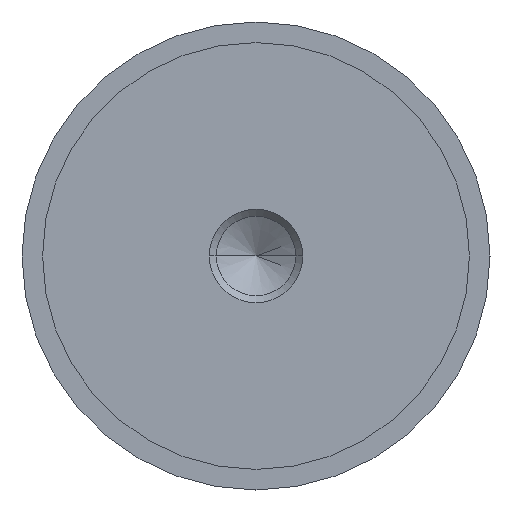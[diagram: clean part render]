
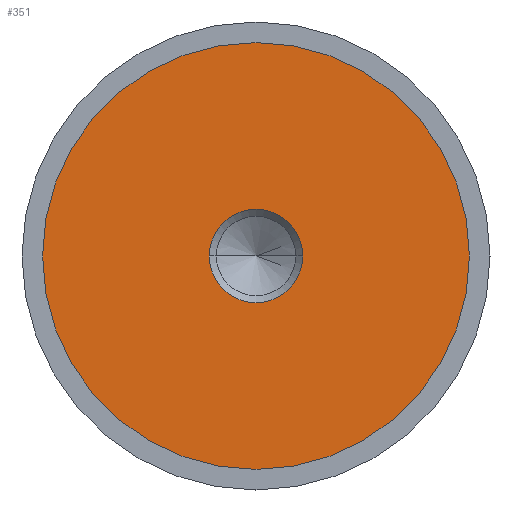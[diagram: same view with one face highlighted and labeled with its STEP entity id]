
A CAD part, left-side view. The second image highlights one B-rep face of the part: STEP entity #351.
In plain terms, the highlighted planar face has unit normal (-1, 0, 0).
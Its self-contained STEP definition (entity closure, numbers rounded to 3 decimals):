
#13 = CIRCLE ( 'NONE', #430, 22.8 ) ;
#16 = DIRECTION ( 'NONE',  ( -1., 0., 0. ) ) ;
#19 = DIRECTION ( 'NONE',  ( 1., 0., 0. ) ) ;
#89 = CIRCLE ( 'NONE', #124, 22.8 ) ;
#110 = DIRECTION ( 'NONE',  ( -1., 0., 0. ) ) ;
#114 = CIRCLE ( 'NONE', #666, 4.99 ) ;
#123 = CARTESIAN_POINT ( 'NONE',  ( -14.99, 0., 0. ) ) ;
#124 = AXIS2_PLACEMENT_3D ( 'NONE', #467, #16, #687 ) ;
#127 = FACE_OUTER_BOUND ( 'NONE', #618, .T. ) ;
#141 = ORIENTED_EDGE ( 'NONE', *, *, #690, .T. ) ;
#155 = ORIENTED_EDGE ( 'NONE', *, *, #637, .T. ) ;
#167 = VERTEX_POINT ( 'NONE', #199 ) ;
#172 = DIRECTION ( 'NONE',  ( 0., 0., -1. ) ) ;
#173 = VERTEX_POINT ( 'NONE', #453 ) ;
#199 = CARTESIAN_POINT ( 'NONE',  ( -14.99, 4.99, 0. ) ) ;
#201 = EDGE_CURVE ( 'NONE', #167, #478, #419, .T. ) ;
#203 = AXIS2_PLACEMENT_3D ( 'NONE', #531, #19, #172 ) ;
#268 = EDGE_CURVE ( 'NONE', #425, #173, #13, .T. ) ;
#270 = DIRECTION ( 'NONE',  ( 0., 0., 1. ) ) ;
#275 = ORIENTED_EDGE ( 'NONE', *, *, #268, .T. ) ;
#302 = CARTESIAN_POINT ( 'NONE',  ( -14.99, 0., 22.8 ) ) ;
#307 = ORIENTED_EDGE ( 'NONE', *, *, #201, .T. ) ;
#337 = CARTESIAN_POINT ( 'NONE',  ( -14.99, 0., 0. ) ) ;
#351 = ADVANCED_FACE ( 'NONE', ( #468, #127 ), #693, .F. ) ;
#419 = CIRCLE ( 'NONE', #514, 4.99 ) ;
#425 = VERTEX_POINT ( 'NONE', #302 ) ;
#430 = AXIS2_PLACEMENT_3D ( 'NONE', #337, #110, #270 ) ;
#453 = CARTESIAN_POINT ( 'NONE',  ( -14.99, 0., -22.8 ) ) ;
#467 = CARTESIAN_POINT ( 'NONE',  ( -14.99, 0., 0. ) ) ;
#468 = FACE_BOUND ( 'NONE', #579, .T. ) ;
#478 = VERTEX_POINT ( 'NONE', #616 ) ;
#480 = DIRECTION ( 'NONE',  ( 0., 0., -1. ) ) ;
#502 = DIRECTION ( 'NONE',  ( 1., 0., 0. ) ) ;
#514 = AXIS2_PLACEMENT_3D ( 'NONE', #550, #502, #713 ) ;
#531 = CARTESIAN_POINT ( 'NONE',  ( -14.99, 22.8, 0. ) ) ;
#550 = CARTESIAN_POINT ( 'NONE',  ( -14.99, 0., 0. ) ) ;
#579 = EDGE_LOOP ( 'NONE', ( #155, #307 ) ) ;
#616 = CARTESIAN_POINT ( 'NONE',  ( -14.99, -4.99, 0. ) ) ;
#618 = EDGE_LOOP ( 'NONE', ( #275, #141 ) ) ;
#637 = EDGE_CURVE ( 'NONE', #478, #167, #114, .T. ) ;
#648 = DIRECTION ( 'NONE',  ( 1., 0., 0. ) ) ;
#666 = AXIS2_PLACEMENT_3D ( 'NONE', #123, #648, #480 ) ;
#687 = DIRECTION ( 'NONE',  ( 0., 0., 1. ) ) ;
#690 = EDGE_CURVE ( 'NONE', #173, #425, #89, .T. ) ;
#693 = PLANE ( 'NONE',  #203 ) ;
#713 = DIRECTION ( 'NONE',  ( 0., 0., -1. ) ) ;
